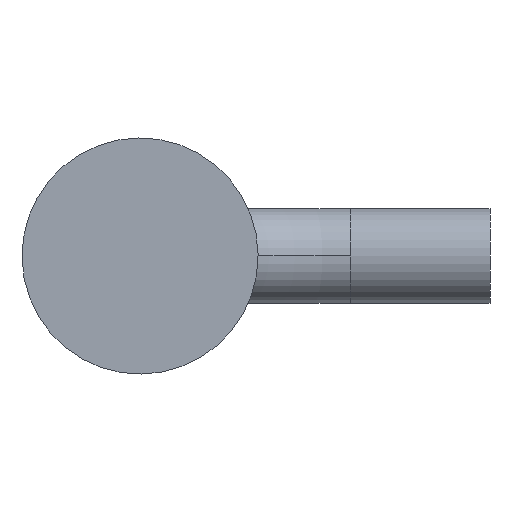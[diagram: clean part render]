
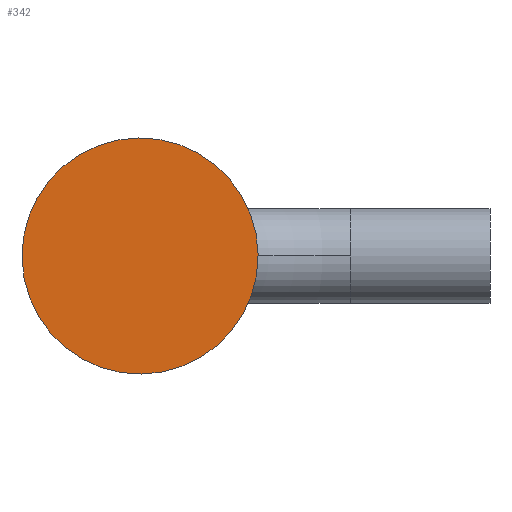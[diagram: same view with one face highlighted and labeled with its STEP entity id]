
A CAD part, left-side view. The second image highlights one B-rep face of the part: STEP entity #342.
In plain terms, the highlighted planar face has unit normal (-1, 0, 0).
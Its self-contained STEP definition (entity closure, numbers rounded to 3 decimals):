
#117=CARTESIAN_POINT('',(-2.998,0.,0.));
#118=DIRECTION('',(-1.,0.,0.));
#119=DIRECTION('',(0.,-0.187,-0.982));
#120=AXIS2_PLACEMENT_3D('',#117,#118,#119);
#122=CARTESIAN_POINT('',(-2.998,0.,0.));
#123=DIRECTION('',(-1.,0.,0.));
#124=DIRECTION('',(0.,0.187,0.982));
#125=AXIS2_PLACEMENT_3D('',#122,#123,#124);
#137=CARTESIAN_POINT('',(-2.998,5.153,27.013));
#139=VERTEX_POINT('',#137);
#143=CARTESIAN_POINT('',(-2.998,-5.153,
-27.013));
#144=VERTEX_POINT('',#143);
#333=CARTESIAN_POINT('',(-2.998,0.,
0.));
#334=DIRECTION('',(1.,0.,0.));
#335=DIRECTION('',(0.,-0.187,-0.982));
#336=AXIS2_PLACEMENT_3D('',#333,#334,#335);
#337=PLANE('',#336);
#338=ORIENTED_EDGE('',*,*,#328,.F.);
#339=ORIENTED_EDGE('',*,*,#312,.F.);
#340=EDGE_LOOP('',(#338,#339));
#341=FACE_OUTER_BOUND('',#340,.F.);
#121=CIRCLE('',#120,27.5);
#126=CIRCLE('',#125,27.5);
#312=EDGE_CURVE('',#139,#144,#126,.T.);
#328=EDGE_CURVE('',#144,#139,#121,.T.);
#342=ADVANCED_FACE('',(#341),#337,.F.);
